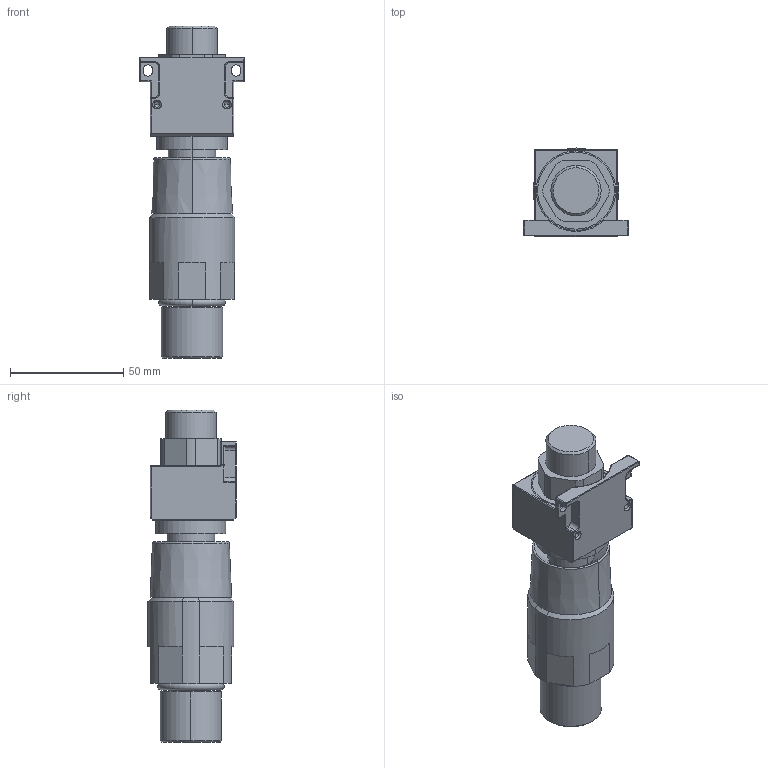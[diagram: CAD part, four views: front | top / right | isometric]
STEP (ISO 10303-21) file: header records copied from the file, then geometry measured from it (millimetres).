
FILE_DESCRIPTION((''),'2;1');
FILE_NAME('PBMC_MATED_ASSY_SPEC_ASM','2026-03-18T13:05:57',('gpcharest'),(''),'CREO PARAMETRIC BY PTC INC, 2025234','CREO PARAMETRIC BY PTC INC, 2025234','');
FILE_SCHEMA(('CONFIG_CONTROL_DESIGN'));
Length unit declared in the file: millimetre
Products named in the file (9): PBMC_SOCKET_BASE_SPEC; PBMC_SOCKET_CONE_SPEC; PBMC_SOCKET_SPEC_ASM; PBMC_PLUG_CUP_SPEC; PBMC_PLUG_ROTATE_SPEC; PBMC_PLUG_BLOCK_SPEC; PBMC_PLUG_SWIVEL_OP-E_SPEC; PBMC_PLUG_ASSY_SPEC_ASM; PBMC_MATED_ASSY_SPEC_ASM
Assembly tree (8 placements, depth 3):
  PBMC_MATED_ASSY_SPEC_ASM
    PBMC_SOCKET_SPEC_ASM
      PBMC_SOCKET_BASE_SPEC
      PBMC_SOCKET_CONE_SPEC
    PBMC_PLUG_ASSY_SPEC_ASM
      PBMC_PLUG_CUP_SPEC
      PBMC_PLUG_ROTATE_SPEC
      PBMC_PLUG_BLOCK_SPEC
      PBMC_PLUG_SWIVEL_OP-E_SPEC
Bounding box: 46 x 39 x 146.7 mm (x, y, z)
Volume: 118353.8 mm3; surface area: 45578.8 mm2
Topology: 10 solids, 11 shells, 286 faces, 625 edges, 365 vertices
Faces by surface type: cylinder 112, plane 78, cone 45, torus 35, sphere 16
Entity records: 8030 total; most frequent: DIRECTION 1544, CARTESIAN_POINT 1359, ORIENTED_EDGE 1234, AXIS2_PLACEMENT_3D 631, EDGE_CURVE 617, VERTEX_POINT 365, CIRCLE 322, EDGE_LOOP 312
